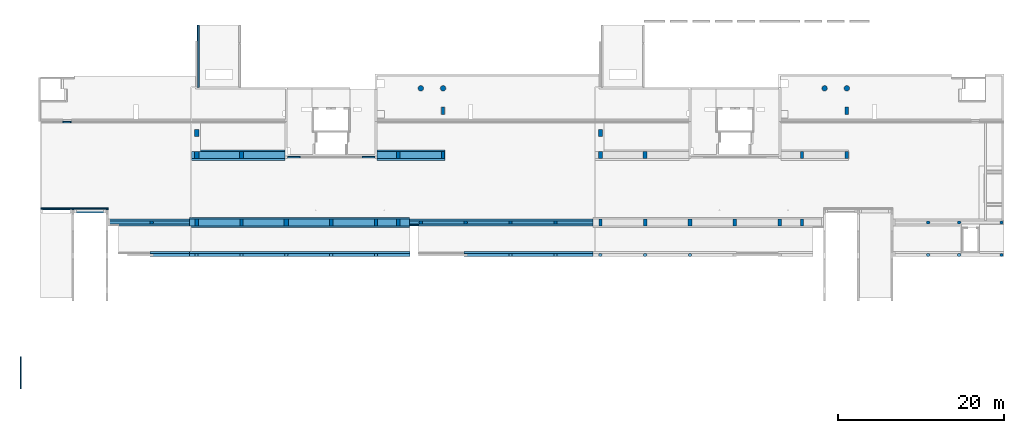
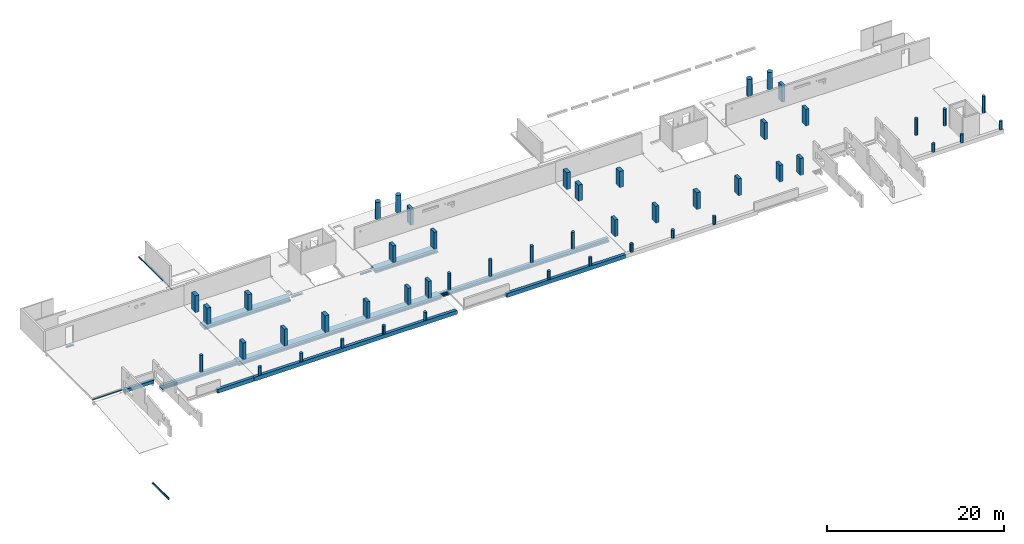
# One storey, part 1 of 10: 49 columns, 16 beams.
"""IFC2X3 building model written with IfcOpenShell, lengths in millimetres."""

from ifc_helpers import new_model, entity, si_unit, converted_unit, derived_unit, direction, frame, frame_2d, origin, origin_2d_with_axis, place, context, subcontext, project, spatial, polyline, circle_curve, parameter, trimmed, segment, composite_curve, rectangle, circle, outline, extrude, source, transform, mapped, material, type_object, type_shapes, element, save


model = new_model("IFC2X3")

# Units and contexts
model_context = context("Model", 3, precision=0.01, world=origin(), true_north=direction((6.12303176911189e-17, 1.0)))
body_context = subcontext(model_context, "Body", "Model", "MODEL_VIEW")
ifc_project = project(units=[si_unit("LENGTHUNIT", "METRE", prefix="MILLI"), si_unit("AREAUNIT", "SQUARE_METRE"), si_unit("VOLUMEUNIT", "CUBIC_METRE"), converted_unit("PLANEANGLEUNIT", "DEGREE", entity("IfcRatioMeasure", 0.0174532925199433), si_unit("PLANEANGLEUNIT", "RADIAN"), dimensions=[0, 0, 0, 0, 0, 0, 0]), si_unit("MASSUNIT", "GRAM", prefix="KILO"), derived_unit("MASSDENSITYUNIT", [(si_unit("MASSUNIT", "GRAM", prefix="KILO"), 1), (si_unit("LENGTHUNIT", "METRE"), -3)]), si_unit("TIMEUNIT", "SECOND"), si_unit("FREQUENCYUNIT", "HERTZ"), si_unit("THERMODYNAMICTEMPERATUREUNIT", "DEGREE_CELSIUS"), derived_unit("THERMALTRANSMITTANCEUNIT", [(si_unit("MASSUNIT", "GRAM", prefix="KILO"), 1), (si_unit("THERMODYNAMICTEMPERATUREUNIT", "KELVIN"), -1), (si_unit("TIMEUNIT", "SECOND"), -3)]), derived_unit("VOLUMETRICFLOWRATEUNIT", [(si_unit("LENGTHUNIT", "METRE"), 3), (si_unit("TIMEUNIT", "SECOND"), -1)]), si_unit("ELECTRICCURRENTUNIT", "AMPERE"), si_unit("ELECTRICVOLTAGEUNIT", "VOLT"), si_unit("POWERUNIT", "WATT"), si_unit("FORCEUNIT", "NEWTON", prefix="KILO"), si_unit("ILLUMINANCEUNIT", "LUX"), si_unit("LUMINOUSFLUXUNIT", "LUMEN"), si_unit("LUMINOUSINTENSITYUNIT", "CANDELA"), derived_unit("USERDEFINED", [(si_unit("MASSUNIT", "GRAM", prefix="KILO"), -1), (si_unit("LENGTHUNIT", "METRE"), -2), (si_unit("TIMEUNIT", "SECOND"), 3), (si_unit("LUMINOUSFLUXUNIT", "LUMEN"), 1)]), derived_unit("LINEARVELOCITYUNIT", [(si_unit("LENGTHUNIT", "METRE"), 1), (si_unit("TIMEUNIT", "SECOND"), -1)]), si_unit("PRESSUREUNIT", "PASCAL"), derived_unit("USERDEFINED", [(si_unit("LENGTHUNIT", "METRE"), -2), (si_unit("MASSUNIT", "GRAM", prefix="KILO"), 1), (si_unit("TIMEUNIT", "SECOND"), -2)])], contexts=[model_context])

# Site, building, storey
site_placement = place(None, origin())
site = spatial("IfcSite", under=ifc_project, at=site_placement, Name="Default", CompositionType="ELEMENT")
building_placement = place(site_placement, origin())
building = spatial("IfcBuilding", under=site, at=building_placement, Name="niet gebruiken", CompositionType="ELEMENT")
storey_placement = place(building_placement, frame((0.0, 0.0, 9410.0)))
storey = spatial("IfcBuildingStorey", under=building, at=storey_placement, Name="02b tweede tussenverdieping", CompositionType="ELEMENT", Elevation=9409.99999999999)

# Columns
ifc_material_1 = material(Name="NLRS_f2_beton prefab")
column_type_1 = type_object("IfcColumnType", Name="ø400", PredefinedType="COLUMN", material=ifc_material_1)
shared_shape_1 = source(origin(), body_context, "Body", "SweptSolid", [
    extrude(circle(Radius=200.0, at=frame_2d((1.69197988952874e-14, -3.02923644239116e-13), x_axis=(1.0, 0.0))), frame((0.0, 0.0, 9430.0)), (0.0, 0.0, 1.0), 1130.0),
])
type_shapes(column_type_1, [shared_shape_1])
for number, where in (
    (1, (27000.0, 24976.0, -9410.0)),
    (2, (32400.0, 24976.0, -9410.0)),
    (3, (37800.0, 24976.0, -9410.0)),
    (4, (43200.0, 24976.0, -9410.0)),
    (5, (48600.0, 24976.0, -9410.0)),
    (6, (64800.0, 24976.0, -9410.0)),
    (7, (70200.0, 24976.0, -9410.0)),
    (8, (75600.0, 24976.0, -9410.0)),
    (9, (81000.0, 24976.0, -9410.0)),
    (10, (86400.0, 24976.0, -9410.0)),
    (11, (118800.0, 24976.0, -9410.0)),
    (12, (115075.000813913, 24976.0, -9410.0)),
):
    element("IfcColumn", number, at=place(storey_placement, frame(where)), inside=storey, type_object=column_type_1, material=ifc_material_1, Name="NLRS_28. kolom rond_gen:ø400", ObjectType="ø400", context=body_context, shape_type="MappedRepresentation", body=[
        mapped(shared_shape_1, transform((0.0, 0.0, 0.0), scale=1.0)),
    ])
column_type_2 = type_object("IfcColumnType", Name="400x850", PredefinedType="COLUMN", material=ifc_material_1)
shared_shape_2 = source(origin(), body_context, "Body", "SweptSolid", [
    extrude(rectangle(XDim=850.0, YDim=400.0, at=origin_2d_with_axis()), frame((0.0, 0.0, 9360.0), z_axis=(0.0, 0.0, 1.0), x_axis=(0.0, -1.0, 0.0)), (0.0, 0.0, 1.0), 2340.00000000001),
])
type_shapes(column_type_2, [shared_shape_2])
for number, where, name in (
    (13, (32400.0, 28881.0, -9410.0), "NLRS_28. kolom vierkant_gen:400x850"),
    (14, (27025.0, 28881.0, -9410.0), "NLRS_28. kolom vierkant_gen:400x850"),
    (15, (43200.0, 28881.0, -9410.0), "NLRS_28. kolom vierkant_gen:400x850"),
    (16, (48600.0, 28881.0, -9410.0), "NLRS_28. kolom vierkant_gen:400x850"),
    (17, (51275.0, 28881.0, -9410.0), "NLRS_28. kolom vierkant_gen:400x850"),
    (18, (75625.0, 28881.0, -9410.0), "NLRS_28. kolom vierkant_gen:400x850"),
    (19, (81000.0, 28881.0, -9410.0), "NLRS_28. kolom vierkant_gen:400x850"),
    (20, (91800.0, 28881.0, -9410.0), "NLRS_28. kolom vierkant_gen:400x850"),
    (21, (97200.0, 28881.0, -9410.0), "NLRS_28. kolom vierkant_gen:400x850"),
    (22, (99875.0, 28881.0, -9410.0), "NLRS_28. kolom vierkant_gen:400x850"),
):
    element("IfcColumn", number, at=place(storey_placement, frame(where)), inside=storey, type_object=column_type_2, material=ifc_material_1, Name=name, ObjectType="400x850", context=body_context, shape_type="MappedRepresentation", body=[
        mapped(shared_shape_2, transform((0.0, 0.0, 0.0), scale=1.0)),
    ])
for number, where, z_axis, x_axis, name in (
    (23, (51275.0, 36981.0, -9410.0), (0.0, 0.0, 1.0), (-1.0, 0.0, 0.0), "NLRS_28. kolom vierkant_gen:400x850"),
    (24, (56675.0, 36981.0, -9410.0), (0.0, 0.0, 1.0), (-1.0, 0.0, 0.0), "NLRS_28. kolom vierkant_gen:400x850"),
    (25, (99875.0, 36981.0, -9410.0), (0.0, 0.0, 1.0), (-1.0, 0.0, 0.0), "NLRS_28. kolom vierkant_gen:400x850"),
    (26, (105275.0, 36981.0, -9410.0), (0.0, 0.0, 1.0), (-1.0, 0.0, 0.0), "NLRS_28. kolom vierkant_gen:400x850"),
):
    element("IfcColumn", number, at=place(storey_placement, frame(where, z_axis=z_axis, x_axis=x_axis)), inside=storey, type_object=column_type_2, material=ifc_material_1, Name=name, ObjectType="400x850", context=body_context, shape_type="MappedRepresentation", body=[
        mapped(shared_shape_2, transform((0.0, 0.0, 0.0), scale=1.0)),
    ])
column_type_3 = type_object("IfcColumnType", Name="500x850", PredefinedType="COLUMN", material=ifc_material_1)
shared_shape_3 = source(origin(), body_context, "Body", "SweptSolid", [
    extrude(rectangle(XDim=850.0, YDim=500.0, at=origin_2d_with_axis()), frame((0.0, 0.0, 9360.0), z_axis=(0.0, 0.0, 1.0), x_axis=(0.0, -1.0, 0.0)), (0.0, 0.0, 1.0), 2340.00000000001),
])
type_shapes(column_type_3, [shared_shape_3])
for number, where, name in (
    (27, (37800.0, 28881.0, -9410.0), "NLRS_28. kolom vierkant_gen:500x850"),
    (28, (86400.0, 28881.0, -9410.0), "NLRS_28. kolom vierkant_gen:500x850"),
):
    element("IfcColumn", number, at=place(storey_placement, frame(where)), inside=storey, type_object=column_type_3, material=ifc_material_1, Name=name, ObjectType="500x850", context=body_context, shape_type="MappedRepresentation", body=[
        mapped(shared_shape_3, transform((0.0, 0.0, 0.0), scale=1.0)),
    ])
for number, where, z_axis, x_axis, name in (
    (29, (27025.0, 39656.0, -9410.0), (0.0, 0.0, 1.0), (-1.0, 0.0, 0.0), "NLRS_28. kolom vierkant_gen:500x850"),
    (30, (75625.0, 39656.0, -9410.0), (0.0, 0.0, 1.0), (-1.0, 0.0, 0.0), "NLRS_28. kolom vierkant_gen:500x850"),
):
    element("IfcColumn", number, at=place(storey_placement, frame(where, z_axis=z_axis, x_axis=x_axis)), inside=storey, type_object=column_type_3, material=ifc_material_1, Name=name, ObjectType="500x850", context=body_context, shape_type="MappedRepresentation", body=[
        mapped(shared_shape_3, transform((0.0, 0.0, 0.0), scale=1.0)),
    ])
column_type_4 = type_object("IfcColumnType", Name="ø400", PredefinedType="COLUMN", material=ifc_material_1)
shared_shape_4 = source(origin(), body_context, "Body", "SweptSolid", [
    extrude(circle(Radius=200.0, at=frame_2d((1.69197988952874e-14, -3.02923644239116e-13), x_axis=(1.0, 0.0))), frame((0.0, 0.0, 9360.0)), (0.0, 0.0, 1.0), 2320.00000000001),
])
type_shapes(column_type_4, [shared_shape_4])
for number, where in (
    (31, (21600.0, 28881.0, -9410.0)),
    (32, (54000.0, 28881.0, -9410.0)),
    (33, (59400.0, 28881.0, -9410.0)),
    (34, (64800.0, 28881.0, -9410.0)),
    (35, (70200.0, 28881.0, -9410.0)),
    (36, (118800.0, 28881.0, -9410.0)),
    (37, (115075.0, 28881.0, -9410.0)),
    (38, (123900.0, 28881.0, -9410.0)),
):
    element("IfcColumn", number, at=place(storey_placement, frame(where)), inside=storey, type_object=column_type_4, material=ifc_material_1, Name="NLRS_28. kolom rond_gen:ø400", ObjectType="ø400", context=body_context, shape_type="MappedRepresentation", body=[
        mapped(shared_shape_4, transform((0.0, 0.0, 0.0), scale=1.0)),
    ])
column_type_5 = type_object("IfcColumnType", Name="500x850", PredefinedType="COLUMN", material=ifc_material_1)
shared_shape_5 = source(origin(), body_context, "Body", "SweptSolid", [
    extrude(rectangle(XDim=850.0, YDim=500.0, at=origin_2d_with_axis()), frame((0.0, 0.0, 9360.0), z_axis=(0.0, 0.0, 1.0), x_axis=(0.0, -1.0, 0.0)), (0.0, 0.0, 1.0), 2250.00000000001),
])
type_shapes(column_type_5, [shared_shape_5])
for number, where, z_axis, x_axis, name in (
    (39, (27025.0, 36981.0, -9410.0), (0.0, 0.0, 1.0), (-1.0, 0.0, 0.0), "NLRS_28. kolom vierkant_gen:500x850"),
    (40, (32400.0, 36981.0, -9410.0), (0.0, 0.0, 1.0), (-1.0, 0.0, 0.0), "NLRS_28. kolom vierkant_gen:500x850"),
    (41, (75625.0, 36981.0, -9410.0), (0.0, 0.0, 1.0), (-1.0, 0.0, 0.0), "NLRS_28. kolom vierkant_gen:500x850"),
    (42, (81000.0, 36981.0, -9410.0), (0.0, 0.0, 1.0), (-1.0, 0.0, 0.0), "NLRS_28. kolom vierkant_gen:500x850"),
):
    element("IfcColumn", number, at=place(storey_placement, frame(where, z_axis=z_axis, x_axis=x_axis)), inside=storey, type_object=column_type_5, material=ifc_material_1, Name=name, ObjectType="500x850", context=body_context, shape_type="MappedRepresentation", body=[
        mapped(shared_shape_5, transform((0.0, 0.0, 0.0), scale=1.0)),
    ])
column_type_6 = type_object("IfcColumnType", Name="400x850", PredefinedType="COLUMN", material=ifc_material_1)
shared_shape_6 = source(origin(), body_context, "Body", "SweptSolid", [
    extrude(rectangle(XDim=850.0, YDim=400.0, at=origin_2d_with_axis()), frame((0.0, 0.0, 9440.0), z_axis=(0.0, 0.0, 1.0), x_axis=(0.0, -1.0, 0.0)), (0.0, 0.0, 1.0), 2260.00000000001),
])
type_shapes(column_type_6, [shared_shape_6])
for number, where, z_axis, x_axis, name in (
    (43, (105275.0, 42331.0, -9410.0), (0.0, 0.0, 1.0), (-1.0, 0.0, 0.0), "NLRS_28. kolom vierkant_gen:400x850"),
    (44, (56675.0, 42331.0, -9410.0), (0.0, 0.0, 1.0), (-1.0, 0.0, 0.0), "NLRS_28. kolom vierkant_gen:400x850"),
):
    element("IfcColumn", number, at=place(storey_placement, frame(where, z_axis=z_axis, x_axis=x_axis)), inside=storey, type_object=column_type_6, material=ifc_material_1, Name=name, ObjectType="400x850", context=body_context, shape_type="MappedRepresentation", body=[
        mapped(shared_shape_6, transform((0.0, 0.0, 0.0), scale=1.0)),
    ])
column_type_7 = type_object("IfcColumnType", Name="ø650", PredefinedType="COLUMN", material=ifc_material_1)
shared_shape_7 = source(origin(), body_context, "Body", "SweptSolid", [
    extrude(circle(Radius=325.0, at=frame_2d((3.38395977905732e-14, 4.90135947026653e-13), x_axis=(1.0, 0.0))), frame((0.0, 0.0, 9440.0), z_axis=(0.0, 0.0, 1.0), x_axis=(-1.0, 0.0, 0.0)), (0.0, 0.0, 1.0), 2370.00000000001),
])
type_shapes(column_type_7, [shared_shape_7])
for number, where in (
    (45, (105275.0, 45031.0, -9410.0)),
    (46, (102600.0, 45031.0, -9410.0)),
    (47, (56675.0, 45031.0, -9410.0)),
):
    element("IfcColumn", number, at=place(storey_placement, frame(where)), inside=storey, type_object=column_type_7, material=ifc_material_1, Name="NLRS_28. kolom rond_gen:ø650", ObjectType="ø650", context=body_context, shape_type="MappedRepresentation", body=[
        mapped(shared_shape_7, transform((0.0, 0.0, 0.0), scale=1.0)),
    ])
column_type_8 = type_object("IfcColumnType", Name="ø650", PredefinedType="COLUMN", material=ifc_material_1)
shared_shape_8 = source(origin(), body_context, "Body", "SweptSolid", [
    extrude(circle(Radius=325.0, at=frame_2d((3.38395977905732e-14, 4.90135947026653e-13), x_axis=(1.0, 0.0))), frame((0.0, 0.0, 9430.0), z_axis=(0.0, 0.0, 1.0), x_axis=(-1.0, 0.0, 0.0)), (0.0, 0.0, 1.0), 2380.00000000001),
])
type_shapes(column_type_8, [shared_shape_8])
column_1_placement = place(storey_placement, frame((54000.0, 45031.0, -9410.0)))
element("IfcColumn", 48, at=column_1_placement, inside=storey, type_object=column_type_8, material=ifc_material_1, Name="NLRS_28. kolom rond_gen:ø650", ObjectType="ø650", context=body_context, shape_type="MappedRepresentation", body=[
    mapped(shared_shape_8, transform((0.0, 0.0, 0.0), scale=1.0)),
])
column_type_9 = type_object("IfcColumnType", Name="ø400", PredefinedType="COLUMN", material=ifc_material_1)
shared_shape_9 = source(origin(), body_context, "Body", "SweptSolid", [
    extrude(circle(Radius=200.000000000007, at=frame_2d((-3.75232390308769e-25, -8.66293703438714e-12), x_axis=(1.0, 0.0))), frame((123900.0, 24976.0, 9430.0)), (0.0, 0.0, 1.0), 1150.0),
])
type_shapes(column_type_9, [shared_shape_9])
column_2_placement = place(storey_placement, frame((0.0, 0.0, -9410.0)))
element("IfcColumn", 49, at=column_2_placement, inside=storey, type_object=column_type_9, material=ifc_material_1, Name="NLRS_28. kolom rond_gen:ø400", ObjectType="ø400", context=body_context, shape_type="MappedRepresentation", body=[
    mapped(shared_shape_9, transform((0.0, 0.0, 0.0), scale=1.0)),
])

# Beams
beam_type_1 = type_object("IfcBeamType", Name="NLRS_28.11_SF_WPB_prefabbeton balk enkele sponning_gen:600x540/200x200", PredefinedType="BEAM")
beam_1_placement = place(storey_placement, frame((59200.0, 25076.0, 10.0)))
element("IfcBeam", 50, at=beam_1_placement, inside=storey, type_object=beam_type_1, material=ifc_material_1, Name="NLRS_28.11_SF_WPB_prefabbeton balk enkele sponning_gen:600x540/200x200", ObjectType="NLRS_28.11_SF_WPB_prefabbeton balk enkele sponning_gen:600x540/200x200", context=body_context, shape_type="SweptSolid", body=[
    extrude(outline(polyline([(-293.333333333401, -333.333333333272), (246.6666666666, -333.333333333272), (246.666666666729, 266.66666666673), (46.6666666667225, 266.666666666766), (46.6666666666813, 66.6666666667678), (-293.33333333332, 66.666666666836), (-293.333333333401, -333.333333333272)])), frame((0.0, 33.3333333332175, -293.333333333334), z_axis=(1.0, 0.0, 0.0), x_axis=(0.0, 0.0, -1.0)), (0.0, 0.0, 1.0), 15530.0000000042),
])
beam_2_placement = place(storey_placement, frame((26150.0, 25076.0, 10.0)))
element("IfcBeam", 51, at=beam_2_placement, inside=storey, type_object=beam_type_1, material=ifc_material_1, Name="NLRS_28.11_SF_WPB_prefabbeton balk enkele sponning_gen:600x540/200x200", ObjectType="NLRS_28.11_SF_WPB_prefabbeton balk enkele sponning_gen:600x540/200x200", context=body_context, shape_type="SweptSolid", body=[
    extrude(outline(polyline([(-293.333333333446, -333.333333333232), (246.666666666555, -333.333333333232), (246.666666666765, 266.666666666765), (46.6666666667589, 266.666666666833), (46.6666666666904, 66.666666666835), (-293.333333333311, 66.6666666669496), (-293.333333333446, -333.333333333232)])), frame((0.0, 33.3333333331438, -293.333333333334), z_axis=(1.0, 0.0, 0.0), x_axis=(0.0, 0.0, -1.0)), (0.0, 0.0, 1.0), 26549.9999999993),
])
beam_3_placement = place(storey_placement, frame((21400.0, 25076.0, 10.0)))
element("IfcBeam", 52, at=beam_3_placement, inside=storey, type_object=beam_type_1, material=ifc_material_1, Name="NLRS_28.11_SF_WPB_prefabbeton balk enkele sponning_gen:600x540/200x200", ObjectType="NLRS_28.11_SF_WPB_prefabbeton balk enkele sponning_gen:600x540/200x200", context=body_context, shape_type="SweptSolid", body=[
    extrude(outline(polyline([(-293.333333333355, -333.333333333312), (246.666666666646, -333.333333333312), (246.666666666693, 266.66666666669), (46.6666666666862, 266.666666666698), (46.6666666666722, 66.6666666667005), (-293.33333333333, 66.6666666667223), (-293.333333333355, -333.333333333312)])), frame((0.0, 33.3333333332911, -293.333333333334), z_axis=(1.0, 0.0, 0.0), x_axis=(0.0, 0.0, -1.0)), (0.0, 0.0, 1.0), 4730.00000000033),
])
beam_type_2 = type_object("IfcBeamType", Name="NLRS_28.11_SF_WPB_prefabbeton balk dubbele sponning_gen:800x460/200x260/200x260", PredefinedType="BEAM")
beam_4_placement = place(storey_placement, frame((52660.0, 28881.0, -70.0)))
element("IfcBeam", 53, at=beam_4_placement, inside=storey, type_object=beam_type_2, material=ifc_material_1, Name="NLRS_28.11_SF_WPB_prefabbeton balk dubbele sponning_gen:800x460/200x260/200x260", ObjectType="NLRS_28.11_SF_WPB_prefabbeton balk dubbele sponning_gen:800x460/200x260/200x260", context=body_context, shape_type="SweptSolid", body=[
    extrude(outline(polyline([(15.0, -400.0), (215.0, -400.0), (215.0, 400.0), (15.0, 400.0), (15.0, 200.0), (-245.0, 200.0), (-245.0, -200.0), (15.0, -200.0), (15.0, -400.0)])), frame((0.0, 0.0, -245.0), z_axis=(1.0, 0.0, 0.0), x_axis=(0.0, 0.0, -1.0)), (0.0, 0.0, 1.0), 22069.9999999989),
])
beam_5_placement = place(storey_placement, frame((16345.0, 28881.0, -70.0)))
element("IfcBeam", 54, at=beam_5_placement, inside=storey, type_object=beam_type_2, material=ifc_material_1, Name="NLRS_28.11_SF_WPB_prefabbeton balk dubbele sponning_gen:800x460/200x260/200x260", ObjectType="NLRS_28.11_SF_WPB_prefabbeton balk dubbele sponning_gen:800x460/200x260/200x260", context=body_context, shape_type="SweptSolid", body=[
    extrude(outline(polyline([(15.0, -400.0), (215.0, -400.0), (215.0, 400.0), (15.0, 400.0), (15.0, 200.0), (-245.0, 200.0), (-245.0, -200.0), (15.0, -200.0), (15.0, -400.0)])), frame((0.0, 0.0, -245.0), z_axis=(1.0, 0.0, 0.0), x_axis=(0.0, 0.0, -1.0)), (0.0, 0.0, 1.0), 9785.00000000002),
])
beam_type_3 = type_object("IfcBeamType", Name="NLRS_28.11_SF_WPB_prefabbeton balk dubbele sponning_gen:1250x460/200x260/200x260", PredefinedType="BEAM")
beam_6_placement = place(storey_placement, frame((26150.0, 28881.0, -70.0)))
element("IfcBeam", 55, at=beam_6_placement, inside=storey, type_object=beam_type_3, material=ifc_material_1, Name="NLRS_28.11_SF_WPB_prefabbeton balk dubbele sponning_gen:1250x460/200x260/200x260", ObjectType="NLRS_28.11_SF_WPB_prefabbeton balk dubbele sponning_gen:1250x460/200x260/200x260", context=body_context, shape_type="SweptSolid", body=[
    extrude(outline(polyline([(15.0, -625.0), (215.0, -625.0), (215.0, 625.0), (15.0, 625.0), (15.0, 425.0), (-245.0, 425.0), (-245.0, -425.0), (15.0, -425.0), (15.0, -625.0)])), frame((0.0, 0.0, -245.0), z_axis=(1.0, 0.0, 0.0), x_axis=(0.0, 0.0, -1.0)), (0.0, 0.0, 1.0), 26490.0000000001),
])
beam_7_placement = place(storey_placement, frame((48745.0, 36981.0, -70.0)))
element("IfcBeam", 56, at=beam_7_placement, inside=storey, type_object=beam_type_3, material=ifc_material_1, Name="NLRS_28.11_SF_WPB_prefabbeton balk dubbele sponning_gen:1250x460/200x260/200x260", ObjectType="NLRS_28.11_SF_WPB_prefabbeton balk dubbele sponning_gen:1250x460/200x260/200x260", context=body_context, shape_type="SweptSolid", body=[
    extrude(outline(polyline([(15.0, -625.0), (215.0, -625.0), (215.0, 625.0), (15.0, 625.0), (15.0, 425.0), (-245.0, 425.0), (-245.0, -425.0), (15.0, -425.0), (15.0, -625.0)])), frame((0.0, 0.0, -245.0), z_axis=(1.0, 0.0, 0.0), x_axis=(0.0, 0.0, -1.0)), (0.0, 0.0, 1.0), 8155.0000000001),
])
beam_8_placement = place(storey_placement, frame((26370.0, 36981.0, -70.0)))
element("IfcBeam", 57, at=beam_8_placement, inside=storey, type_object=beam_type_3, material=ifc_material_1, Name="NLRS_28.11_SF_WPB_prefabbeton balk dubbele sponning_gen:1250x460/200x260/200x260", ObjectType="NLRS_28.11_SF_WPB_prefabbeton balk dubbele sponning_gen:1250x460/200x260/200x260", context=body_context, shape_type="SweptSolid", body=[
    extrude(outline(polyline([(15.0, -625.0), (215.0, -625.0), (215.0, 625.0), (15.0, 625.0), (15.0, 425.0), (-245.0, 425.0), (-245.0, -425.0), (15.0, -425.0), (15.0, -625.0)])), frame((0.0, 0.0, -245.0), z_axis=(1.0, 0.0, 0.0), x_axis=(0.0, 0.0, -1.0)), (0.0, 0.0, 1.0), 11284.9999999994),
])
ifc_material_2 = material(Name="NLRS_h2_staal")
beam_type_4 = type_object("IfcBeamType", Name="NLRS_28.11_SF_WPB_stalen ligger hoekprofiel gelijkzijdig_gen:ligger gelijzijdig hoekprofiel LEQU_200x200x15", PredefinedType="BEAM")
beam_9_placement = place(storey_placement, frame((46945.0, 36756.0, -245.0)))
element("IfcBeam", 58, at=beam_9_placement, inside=storey, type_object=beam_type_4, material=ifc_material_2, Name="NLRS_28.11_SF_WPB_stalen ligger hoekprofiel gelijkzijdig_gen:ligger gelijzijdig hoekprofiel LEQU_200x200x15", ObjectType="NLRS_28.11_SF_WPB_stalen ligger hoekprofiel gelijkzijdig_gen:ligger gelijzijdig hoekprofiel LEQU_200x200x15", context=body_context, shape_type="SweptSolid", body=[
    extrude(outline(composite_curve([segment(polyline([(66.3333333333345, -126.666666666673), (73.3333333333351, -126.666666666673)]), True, "CONTINUOUS"), segment(polyline([(73.3333333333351, -126.666666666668), (73.3333333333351, 73.3333333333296)]), True, "CONTINUOUS"), segment(polyline([(73.3333333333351, 73.3333333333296), (-126.666666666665, 73.3333333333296)]), True, "CONTINUOUS"), segment(polyline([(-126.666666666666, 73.3333333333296), (-126.666666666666, 66.3333333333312)]), True, "CONTINUOUS"), segment(trimmed(circle_curve(frame_2d((-118.666666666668, 66.3333333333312), x_axis=(-1.0, 0.0)), 7.99999999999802), [parameter(0.0)], [parameter(90.0000000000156)], True, "PARAMETER"), True, "CONTINUOUS"), segment(polyline([(-118.666666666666, 58.3333333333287), (42.3333333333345, 58.3333333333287)]), True, "CONTINUOUS"), segment(trimmed(circle_curve(frame_2d((42.3333333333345, 42.333333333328), x_axis=(0.0, 1.0)), 16.0000000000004), [parameter(270.0)], [parameter(0.0)], True, "PARAMETER"), False, "CONTINUOUS"), segment(polyline([(58.3333333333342, 42.333333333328), (58.3333333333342, -118.66666666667)]), True, "CONTINUOUS"), segment(trimmed(circle_curve(frame_2d((66.3333333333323, -118.66666666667), x_axis=(-1.0, 0.0)), 7.99999999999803), [parameter(0.0)], [parameter(90.0000000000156)], True, "PARAMETER"), True, "CONTINUOUS")], self_intersect=False)), frame((0.0, 26.6666666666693, -26.6666666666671), z_axis=(1.0, 0.0, 0.0), x_axis=(0.0, 0.0, -1.0)), (0.0, 0.0, 1.0), 1510.00000000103),
])
beam_10_placement = place(storey_placement, frame((37945.0, 36756.0, -245.0)))
element("IfcBeam", 59, at=beam_10_placement, inside=storey, type_object=beam_type_4, material=ifc_material_2, Name="NLRS_28.11_SF_WPB_stalen ligger hoekprofiel gelijkzijdig_gen:ligger gelijzijdig hoekprofiel LEQU_200x200x15", ObjectType="NLRS_28.11_SF_WPB_stalen ligger hoekprofiel gelijkzijdig_gen:ligger gelijzijdig hoekprofiel LEQU_200x200x15", context=body_context, shape_type="SweptSolid", body=[
    extrude(outline(composite_curve([segment(polyline([(66.3333333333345, -126.666666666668), (73.3333333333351, -126.666666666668)]), True, "CONTINUOUS"), segment(polyline([(73.3333333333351, -126.666666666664), (73.3333333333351, 73.333333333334)]), True, "CONTINUOUS"), segment(polyline([(73.3333333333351, 73.333333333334), (-126.666666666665, 73.333333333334)]), True, "CONTINUOUS"), segment(polyline([(-126.666666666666, 73.333333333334), (-126.666666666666, 66.3333333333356)]), True, "CONTINUOUS"), segment(trimmed(circle_curve(frame_2d((-118.666666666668, 66.3333333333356), x_axis=(-1.0, 0.0)), 7.99999999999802), [parameter(0.0)], [parameter(90.0000000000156)], True, "PARAMETER"), True, "CONTINUOUS"), segment(polyline([(-118.666666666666, 58.3333333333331), (42.3333333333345, 58.3333333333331)]), True, "CONTINUOUS"), segment(trimmed(circle_curve(frame_2d((42.3333333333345, 42.3333333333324), x_axis=(0.0, 1.0)), 16.0000000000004), [parameter(270.0)], [parameter(0.0)], True, "PARAMETER"), False, "CONTINUOUS"), segment(polyline([(58.3333333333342, 42.3333333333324), (58.3333333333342, -118.666666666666)]), True, "CONTINUOUS"), segment(trimmed(circle_curve(frame_2d((66.3333333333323, -118.666666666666), x_axis=(-1.0, 0.0)), 7.99999999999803), [parameter(0.0)], [parameter(90.0000000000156)], True, "PARAMETER"), True, "CONTINUOUS")], self_intersect=False)), frame((0.0, 26.6666666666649, -26.6666666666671), z_axis=(1.0, 0.0, 0.0), x_axis=(0.0, 0.0, -1.0)), (0.0, 0.0, 1.0), 1510.00000000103),
])
beam_11_placement = place(storey_placement, frame((27192.5000000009, 45176.0, -530.0), z_axis=(0.0, 0.0, 1.0), x_axis=(0.0, 1.0, 0.0)))
element("IfcBeam", 60, at=beam_11_placement, inside=storey, type_object=beam_type_4, material=ifc_material_2, Name="NLRS_28.11_SF_WPB_stalen ligger hoekprofiel gelijkzijdig_gen:ligger gelijzijdig hoekprofiel LEQU_200x200x15", ObjectType="NLRS_28.11_SF_WPB_stalen ligger hoekprofiel gelijkzijdig_gen:ligger gelijzijdig hoekprofiel LEQU_200x200x15", context=body_context, shape_type="SweptSolid", body=[
    extrude(outline(composite_curve([segment(polyline([(66.3333333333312, -126.666666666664), (73.3333333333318, -126.666666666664)]), True, "CONTINUOUS"), segment(polyline([(73.3333333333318, -126.66666666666), (73.3333333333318, 73.3333333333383)]), True, "CONTINUOUS"), segment(polyline([(73.3333333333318, 73.3333333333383), (-126.666666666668, 73.3333333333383)]), True, "CONTINUOUS"), segment(polyline([(-126.666666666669, 73.3333333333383), (-126.666666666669, 66.3333333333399)]), True, "CONTINUOUS"), segment(trimmed(circle_curve(frame_2d((-118.666666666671, 66.3333333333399), x_axis=(-1.0, 0.0)), 7.99999999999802), [parameter(0.0)], [parameter(90.0000000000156)], True, "PARAMETER"), True, "CONTINUOUS"), segment(polyline([(-118.666666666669, 58.3333333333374), (42.3333333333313, 58.3333333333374)]), True, "CONTINUOUS"), segment(trimmed(circle_curve(frame_2d((42.3333333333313, 42.3333333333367), x_axis=(0.0, 1.0)), 16.0000000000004), [parameter(270.0)], [parameter(0.0)], True, "PARAMETER"), False, "CONTINUOUS"), segment(polyline([(58.3333333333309, 42.3333333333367), (58.3333333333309, -118.666666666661)]), True, "CONTINUOUS"), segment(trimmed(circle_curve(frame_2d((66.3333333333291, -118.666666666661), x_axis=(-1.0, 0.0)), 7.99999999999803), [parameter(0.0)], [parameter(90.0000000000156)], True, "PARAMETER"), True, "CONTINUOUS")], self_intersect=False)), frame((0.0, 19.1666666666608, -26.6666666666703), z_axis=(1.0, 0.0, 0.0), x_axis=(0.0, 0.0, -1.0)), (0.0, 0.0, 1.0), 7420.0000000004),
])
beam_12_placement = place(storey_placement, frame((10900.0, 40968.5000000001, -145.0)))
element("IfcBeam", 61, at=beam_12_placement, inside=storey, type_object=beam_type_4, material=ifc_material_2, Name="NLRS_28.11_SF_WPB_stalen ligger hoekprofiel gelijkzijdig_gen:ligger gelijzijdig hoekprofiel LEQU_200x200x15", ObjectType="NLRS_28.11_SF_WPB_stalen ligger hoekprofiel gelijkzijdig_gen:ligger gelijzijdig hoekprofiel LEQU_200x200x15", context=body_context, shape_type="SweptSolid", body=[
    extrude(outline(composite_curve([segment(polyline([(66.3333333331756, -126.666666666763), (73.3333333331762, -126.666666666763)]), True, "CONTINUOUS"), segment(polyline([(73.3333333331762, -126.666666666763), (73.3333333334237, 73.3333333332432)]), True, "CONTINUOUS"), segment(polyline([(73.3333333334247, 73.3333333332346), (-126.666666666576, 73.3333333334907)]), True, "CONTINUOUS"), segment(polyline([(-126.666666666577, 73.3333333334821), (-126.666666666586, 66.3333333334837)]), True, "CONTINUOUS"), segment(trimmed(circle_curve(frame_2d((-118.666666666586, 66.3333333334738), x_axis=(-1.0, 0.0)), 7.99999999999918), [parameter(0.0)], [parameter(90.0000000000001)], True, "PARAMETER"), True, "CONTINUOUS"), segment(polyline([(-118.666666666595, 58.3333333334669), (42.3333333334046, 58.3333333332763)]), True, "CONTINUOUS"), segment(trimmed(circle_curve(frame_2d((42.333333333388, 42.33333333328), x_axis=(0.0, 1.0)), 15.9999999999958), [parameter(269.999999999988)], [parameter(0.0)], True, "PARAMETER"), False, "CONTINUOUS"), segment(polyline([(58.3333333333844, 42.3333333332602), (58.3333333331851, -118.666666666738)]), True, "CONTINUOUS"), segment(trimmed(circle_curve(frame_2d((66.3333333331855, -118.666666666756), x_axis=(-1.0, 0.0)), 7.99999999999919), [parameter(0.0)], [parameter(90.0000000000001)], True, "PARAMETER"), True, "CONTINUOUS")], self_intersect=False)), frame((0.0, 19.166666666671, -126.666666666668), z_axis=(1.0, 0.0, 0.0), x_axis=(0.0, 0.0, -1.0)), (0.0, 0.0, 1.0), 1025.00000000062),
])
beam_13_placement = place(storey_placement, frame((8245.0, 30626.0, -252.500000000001)))
element("IfcBeam", 62, at=beam_13_placement, inside=storey, type_object=beam_type_4, material=ifc_material_2, Name="NLRS_28.11_SF_WPB_stalen ligger hoekprofiel gelijkzijdig_gen:ligger gelijzijdig hoekprofiel LEQU_200x200x15", ObjectType="NLRS_28.11_SF_WPB_stalen ligger hoekprofiel gelijkzijdig_gen:ligger gelijzijdig hoekprofiel LEQU_200x200x15", context=body_context, shape_type="SweptSolid", body=[
    extrude(outline(composite_curve([segment(polyline([(-126.666666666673, -73.3333333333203), (73.3333333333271, -73.3333333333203)]), True, "CONTINUOUS"), segment(polyline([(73.3333333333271, -73.3333333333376), (73.3333333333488, 126.666666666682)]), True, "CONTINUOUS"), segment(polyline([(73.3333333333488, 126.66666666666), (66.3333333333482, 126.666666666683)]), True, "CONTINUOUS"), segment(trimmed(circle_curve(frame_2d((66.3333333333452, 118.66666666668), x_axis=(0.0, 1.0)), 7.99999999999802), [parameter(0.0)], [parameter(90.0000000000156)], True, "PARAMETER"), True, "CONTINUOUS"), segment(polyline([(58.333333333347, 118.666666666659), (58.3333333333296, -42.333333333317)]), True, "CONTINUOUS"), segment(trimmed(circle_curve(frame_2d((42.33333333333, -42.3333333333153), x_axis=(1.0, 0.0)), 16.0000000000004), [parameter(270.0)], [parameter(0.0)], True, "PARAMETER"), False, "CONTINUOUS"), segment(polyline([(42.3333333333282, -58.3333333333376), (-118.666666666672, -58.3333333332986)]), True, "CONTINUOUS"), segment(trimmed(circle_curve(frame_2d((-118.666666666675, -66.3333333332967), x_axis=(0.0, 1.0)), 7.99999999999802), [parameter(0.0)], [parameter(90.0000000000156)], True, "PARAMETER"), True, "CONTINUOUS"), segment(polyline([(-126.666666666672, -66.3333333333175), (-126.666666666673, -73.3333333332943)]), True, "CONTINUOUS")], self_intersect=False)), frame((0.0, -126.666666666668, -19.1666666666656), z_axis=(1.0, 0.0, 0.0), x_axis=(0.0, 0.0, -1.0)), (0.0, 0.0, 1.0), 8100.00000000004),
])
beam_type_5 = type_object("IfcBeamType", Name="NLRS_28.11_SF_WPB_prefabbeton balk recht_gen:400x450", PredefinedType="BEAM")
beam_14_placement = place(storey_placement, frame((16055.0, 30226.0, 0.0), z_axis=(0.0, 0.0, 1.0), x_axis=(-1.0, 0.0, 0.0)))
element("IfcBeam", 63, at=beam_14_placement, inside=storey, type_object=beam_type_5, material=ifc_material_1, Name="NLRS_28.11_SF_WPB_prefabbeton balk recht_gen:400x450", ObjectType="NLRS_28.11_SF_WPB_prefabbeton balk recht_gen:400x450", context=body_context, shape_type="SweptSolid", body=[
    extrude(rectangle(XDim=449.999999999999, YDim=400.000000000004, at=frame_2d((0.0, 2.81659140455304e-11), x_axis=(1.0, 0.0))), frame((0.0, 0.0, -225.0), z_axis=(1.0, 0.0, 0.0), x_axis=(0.0, 0.0, -1.0)), (0.0, 0.0, 1.0), 3760.0),
])
beam_type_6 = type_object("IfcBeamType", Name="NLRS_28.11_SF_WPB_stalen ligger hoekprofiel gelijkzijdig_gen:ligger gelijzijdig hoekprofiel LEQU_180x180x16", PredefinedType="BEAM")
beam_15_placement = place(storey_placement, frame((5874.49999999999, 12711.0, 39.0), z_axis=(0.0, 0.0, 1.0), x_axis=(0.0, -1.0, 0.0)))
element("IfcBeam", 64, at=beam_15_placement, inside=storey, type_object=beam_type_6, material=ifc_material_2, Name="NLRS_28.11_SF_WPB_stalen ligger hoekprofiel gelijkzijdig_gen:ligger gelijzijdig hoekprofiel LEQU_180x180x16", ObjectType="NLRS_28.11_SF_WPB_stalen ligger hoekprofiel gelijkzijdig_gen:ligger gelijzijdig hoekprofiel LEQU_180x180x16", context=body_context, shape_type="SweptSolid", body=[
    extrude(outline(composite_curve([segment(polyline([(60.1111111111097, -112.888888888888), (67.1111111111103, -112.888888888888)]), True, "CONTINUOUS"), segment(polyline([(67.1111111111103, -112.888888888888), (67.1111111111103, 67.1111111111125)]), True, "CONTINUOUS"), segment(polyline([(67.1111111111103, 67.1111111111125), (-112.88888888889, 67.1111111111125)]), True, "CONTINUOUS"), segment(polyline([(-112.88888888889, 67.1111111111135), (-112.88888888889, 60.1111111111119)]), True, "CONTINUOUS"), segment(trimmed(circle_curve(frame_2d((-103.888888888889, 60.111111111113), x_axis=(-1.0, 0.0)), 9.00000000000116), [parameter(0.0)], [parameter(89.9999999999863)], True, "PARAMETER"), True, "CONTINUOUS"), segment(polyline([(-103.888888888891, 51.1111111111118), (33.1111111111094, 51.1111111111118)]), True, "CONTINUOUS"), segment(trimmed(circle_curve(frame_2d((33.1111111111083, 33.1111111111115), x_axis=(0.0, 1.0)), 18.0000000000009), [parameter(270.000000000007)], [parameter(0.0)], True, "PARAMETER"), False, "CONTINUOUS"), segment(polyline([(51.1111111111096, 33.1111111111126), (51.1111111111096, -103.888888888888)]), True, "CONTINUOUS"), segment(trimmed(circle_curve(frame_2d((60.1111111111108, -103.888888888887), x_axis=(-1.0, 0.0)), 9.00000000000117), [parameter(0.0)], [parameter(89.9999999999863)], True, "PARAMETER"), True, "CONTINUOUS")], self_intersect=False)), frame((0.0, -16.9111111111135, -112.888888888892), z_axis=(1.0, 0.0, 0.0), x_axis=(0.0, 0.0, -1.0)), (0.0, 0.0, 1.0), 3825.00000000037),
])
beam_type_7 = type_object("IfcBeamType", Name="NLRS_28.11_SF_WPB_prefabbeton balk recht_gen:200x140", PredefinedType="BEAM")
beam_16_placement = place(storey_placement, frame((52700.0, 28581.0, -190.0)))
element("IfcBeam", 65, at=beam_16_placement, inside=storey, type_object=beam_type_7, material=ifc_material_1, Name="NLRS_28.11_SF_WPB_prefabbeton balk recht_gen:200x140", ObjectType="NLRS_28.11_SF_WPB_prefabbeton balk recht_gen:200x140", context=body_context, shape_type="SweptSolid", body=[
    extrude(rectangle(XDim=140.000000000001, YDim=199.999999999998, at=frame_2d((5.40012479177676e-13, 8.66151594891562e-12), x_axis=(1.0, 0.0))), frame((0.0, 0.0, -70.0), z_axis=(1.0, 0.0, 0.0), x_axis=(0.0, 0.0, -1.0)), (0.0, 0.0, 1.0), 989.999999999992),
])

save(model, "model.ifc")
